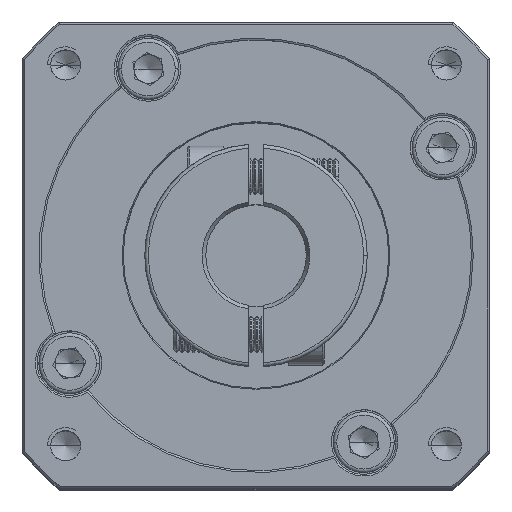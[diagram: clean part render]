
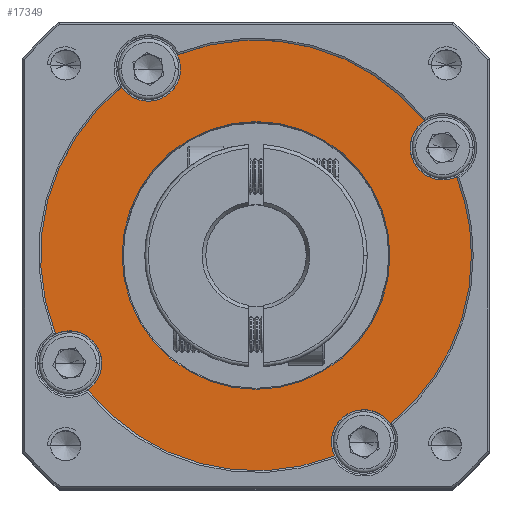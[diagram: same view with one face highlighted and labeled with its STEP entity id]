
A CAD part, top view. The second image highlights one B-rep face of the part: STEP entity #17349.
In plain terms, the highlighted planar face has unit normal (0, 0, 1).
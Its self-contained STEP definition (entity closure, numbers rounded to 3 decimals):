
#81 = CARTESIAN_POINT ( 'NONE',  ( -72.295, 39.886, 31.124 ) ) ;
#365 = DIRECTION ( 'NONE',  ( 1., 0., 0. ) ) ;
#1786 = VERTEX_POINT ( 'NONE', #81 ) ;
#1919 = EDGE_CURVE ( 'NONE', #98457, #53131, #106092, .T. ) ;
#3430 = AXIS2_PLACEMENT_3D ( 'NONE', #76990, #26235, #85480 ) ;
#3675 = DIRECTION ( 'NONE',  ( 1., 0., 0. ) ) ;
#4833 = DIRECTION ( 'NONE',  ( 0., 0., 1. ) ) ;
#5021 = AXIS2_PLACEMENT_3D ( 'NONE', #74126, #73753, #40434 ) ;
#5069 = AXIS2_PLACEMENT_3D ( 'NONE', #101882, #51175, #365 ) ;
#5163 = ORIENTED_EDGE ( 'NONE', *, *, #5378, .T. ) ;
#5345 = VERTEX_POINT ( 'NONE', #93815 ) ;
#5378 = EDGE_CURVE ( 'NONE', #38870, #1786, #98564, .T. ) ;
#5465 = ORIENTED_EDGE ( 'NONE', *, *, #61061, .F. ) ;
#6631 = ORIENTED_EDGE ( 'NONE', *, *, #72800, .F. ) ;
#8724 = CARTESIAN_POINT ( 'NONE',  ( -81.583, 28.941, 31.124 ) ) ;
#9208 = VERTEX_POINT ( 'NONE', #24779 ) ;
#9827 = CARTESIAN_POINT ( 'NONE',  ( -53.651, 39.886, 31.124 ) ) ;
#11881 = ORIENTED_EDGE ( 'NONE', *, *, #68807, .F. ) ;
#13448 = ORIENTED_EDGE ( 'NONE', *, *, #76247, .F. ) ;
#14722 = ORIENTED_EDGE ( 'NONE', *, *, #47704, .T. ) ;
#14975 = VERTEX_POINT ( 'NONE', #8724 ) ;
#15154 = CIRCLE ( 'NONE', #3430, 4.5 ) ;
#16593 = CARTESIAN_POINT ( 'NONE',  ( -42.706, 11.954, 31.124 ) ) ;
#17349 = ADVANCED_FACE ( 'NONE', ( #69065, #23958 ), #86620, .T. ) ;
#18354 = DIRECTION ( 'NONE',  ( 1., 0., 0. ) ) ;
#18575 = CARTESIAN_POINT ( 'NONE',  ( -25.719, 50.831, 31.124 ) ) ;
#20236 = AXIS2_PLACEMENT_3D ( 'NONE', #105131, #54461, #3675 ) ;
#21226 = DIRECTION ( 'NONE',  ( 0., 0., 1. ) ) ;
#22108 = CIRCLE ( 'NONE', #46302, 4.5 ) ;
#22600 = ORIENTED_EDGE ( 'NONE', *, *, #24236, .F. ) ;
#23004 = AXIS2_PLACEMENT_3D ( 'NONE', #39635, #98872, #48194 ) ;
#23550 = CARTESIAN_POINT ( 'NONE',  ( -38.651, 13.905, 31.124 ) ) ;
#23958 = FACE_OUTER_BOUND ( 'NONE', #33172, .T. ) ;
#24236 = EDGE_CURVE ( 'NONE', #9208, #58504, #66276, .T. ) ;
#24779 = CARTESIAN_POINT ( 'NONE',  ( -34.933, 16.441, 31.124 ) ) ;
#24867 = EDGE_CURVE ( 'NONE', #73180, #89462, #87162, .T. ) ;
#26235 = DIRECTION ( 'NONE',  ( 0., 0., 1. ) ) ;
#26613 = DIRECTION ( 'NONE',  ( 0., 0., 1. ) ) ;
#27479 = CARTESIAN_POINT ( 'NONE',  ( -53.651, 39.886, 31.124 ) ) ;
#27935 = CIRCLE ( 'NONE', #57686, 18.644 ) ;
#28732 = DIRECTION ( 'NONE',  ( 0., 0., 1. ) ) ;
#29687 = CARTESIAN_POINT ( 'NONE',  ( -43.151, 13.905, 31.124 ) ) ;
#30822 = CARTESIAN_POINT ( 'NONE',  ( -72.368, 63.331, 31.124 ) ) ;
#32098 = DIRECTION ( 'NONE',  ( 1., 0., 0. ) ) ;
#33172 = EDGE_LOOP ( 'NONE', ( #11881, #53064, #6631, #22600, #86270, #14722, #13448, #53141, #74349, #5465, #69212, #87715, #66628 ) ) ;
#36007 = DIRECTION ( 'NONE',  ( 1., 0., 0. ) ) ;
#36149 = EDGE_LOOP ( 'NONE', ( #5163, #80734 ) ) ;
#38485 = CARTESIAN_POINT ( 'NONE',  ( -35.006, 39.886, 31.124 ) ) ;
#38870 = VERTEX_POINT ( 'NONE', #38485 ) ;
#39635 = CARTESIAN_POINT ( 'NONE',  ( -53.651, 39.886, 31.124 ) ) ;
#40006 = VERTEX_POINT ( 'NONE', #42101 ) ;
#40325 = CIRCLE ( 'NONE', #48317, 4.5 ) ;
#40434 = DIRECTION ( 'NONE',  ( 1., 0., 0. ) ) ;
#42101 = CARTESIAN_POINT ( 'NONE',  ( -75.131, 24.886, 31.124 ) ) ;
#42527 = DIRECTION ( 'NONE',  ( 0., 0., 1. ) ) ;
#43116 = AXIS2_PLACEMENT_3D ( 'NONE', #44813, #104024, #53349 ) ;
#43162 = CIRCLE ( 'NONE', #57288, 4.5 ) ;
#44813 = CARTESIAN_POINT ( 'NONE',  ( -53.651, 39.886, 31.124 ) ) ;
#46302 = AXIS2_PLACEMENT_3D ( 'NONE', #71961, #21226, #80460 ) ;
#47531 = CARTESIAN_POINT ( 'NONE',  ( -32.17, 54.886, 31.124 ) ) ;
#47704 = EDGE_CURVE ( 'NONE', #5345, #103058, #90156, .T. ) ;
#47938 = CARTESIAN_POINT ( 'NONE',  ( -64.596, 67.818, 31.124 ) ) ;
#48194 = DIRECTION ( 'NONE',  ( 1., 0., 0. ) ) ;
#48215 = EDGE_CURVE ( 'NONE', #98457, #14975, #67468, .T. ) ;
#48317 = AXIS2_PLACEMENT_3D ( 'NONE', #77366, #26613, #85838 ) ;
#49409 = DIRECTION ( 'NONE',  ( 0., 0., -1. ) ) ;
#51175 = DIRECTION ( 'NONE',  ( 0., 0., 1. ) ) ;
#51210 = CARTESIAN_POINT ( 'NONE',  ( -77.095, 21.169, 31.124 ) ) ;
#53064 = ORIENTED_EDGE ( 'NONE', *, *, #75943, .T. ) ;
#53131 = VERTEX_POINT ( 'NONE', #66132 ) ;
#53141 = ORIENTED_EDGE ( 'NONE', *, *, #85192, .F. ) ;
#53349 = DIRECTION ( 'NONE',  ( 1., 0., 0. ) ) ;
#54461 = DIRECTION ( 'NONE',  ( 0., 0., 1. ) ) ;
#55558 = CARTESIAN_POINT ( 'NONE',  ( -53.651, 39.886, 31.124 ) ) ;
#55652 = CIRCLE ( 'NONE', #103294, 4.5 ) ;
#57288 = AXIS2_PLACEMENT_3D ( 'NONE', #23550, #82780, #32098 ) ;
#57686 = AXIS2_PLACEMENT_3D ( 'NONE', #100121, #49409, #108563 ) ;
#58504 = VERTEX_POINT ( 'NONE', #29687 ) ;
#60980 = VERTEX_POINT ( 'NONE', #16593 ) ;
#61061 = EDGE_CURVE ( 'NONE', #53131, #89462, #15154, .T. ) ;
#63173 = EDGE_CURVE ( 'NONE', #40006, #14975, #22108, .T. ) ;
#64107 = DIRECTION ( 'NONE',  ( 1., 0., 0. ) ) ;
#65737 = AXIS2_PLACEMENT_3D ( 'NONE', #90134, #90009, #89529 ) ;
#65843 = AXIS2_PLACEMENT_3D ( 'NONE', #27479, #86698, #36007 ) ;
#66132 = CARTESIAN_POINT ( 'NONE',  ( -64.151, 65.867, 31.124 ) ) ;
#66276 = CIRCLE ( 'NONE', #99568, 4.5 ) ;
#66496 = AXIS2_PLACEMENT_3D ( 'NONE', #9827, #69155, #18354 ) ;
#66628 = ORIENTED_EDGE ( 'NONE', *, *, #63173, .F. ) ;
#66653 = VERTEX_POINT ( 'NONE', #51210 ) ;
#67468 = CIRCLE ( 'NONE', #65843, 30. ) ;
#68807 = EDGE_CURVE ( 'NONE', #66653, #40006, #75470, .T. ) ;
#69065 = FACE_BOUND ( 'NONE', #36149, .T. ) ;
#69155 = DIRECTION ( 'NONE',  ( 0., 0., 1. ) ) ;
#69212 = ORIENTED_EDGE ( 'NONE', *, *, #1919, .F. ) ;
#71961 = CARTESIAN_POINT ( 'NONE',  ( -79.631, 24.886, 31.124 ) ) ;
#72800 = EDGE_CURVE ( 'NONE', #58504, #60980, #43162, .T. ) ;
#73180 = VERTEX_POINT ( 'NONE', #97139 ) ;
#73753 = DIRECTION ( 'NONE',  ( 0., 0., 1. ) ) ;
#74126 = CARTESIAN_POINT ( 'NONE',  ( -68.651, 65.867, 31.124 ) ) ;
#74349 = ORIENTED_EDGE ( 'NONE', *, *, #24867, .T. ) ;
#74426 = AXIS2_PLACEMENT_3D ( 'NONE', #55558, #4833, #64107 ) ;
#75470 = CIRCLE ( 'NONE', #5069, 4.5 ) ;
#75943 = EDGE_CURVE ( 'NONE', #66653, #60980, #94264, .T. ) ;
#76247 = EDGE_CURVE ( 'NONE', #100388, #103058, #55652, .T. ) ;
#76990 = CARTESIAN_POINT ( 'NONE',  ( -68.651, 65.867, 31.124 ) ) ;
#77366 = CARTESIAN_POINT ( 'NONE',  ( -27.67, 54.886, 31.124 ) ) ;
#79444 = CARTESIAN_POINT ( 'NONE',  ( -38.651, 13.905, 31.124 ) ) ;
#80460 = DIRECTION ( 'NONE',  ( 1., 0., 0. ) ) ;
#80734 = ORIENTED_EDGE ( 'NONE', *, *, #86650, .T. ) ;
#82780 = DIRECTION ( 'NONE',  ( 0., 0., 1. ) ) ;
#84872 = CIRCLE ( 'NONE', #74426, 30. ) ;
#85192 = EDGE_CURVE ( 'NONE', #73180, #100388, #40325, .T. ) ;
#85480 = DIRECTION ( 'NONE',  ( 1., 0., 0. ) ) ;
#85838 = DIRECTION ( 'NONE',  ( 1., 0., 0. ) ) ;
#86270 = ORIENTED_EDGE ( 'NONE', *, *, #90020, .T. ) ;
#86620 = PLANE ( 'NONE',  #43116 ) ;
#86650 = EDGE_CURVE ( 'NONE', #1786, #38870, #27935, .T. ) ;
#86698 = DIRECTION ( 'NONE',  ( 0., 0., 1. ) ) ;
#87162 = CIRCLE ( 'NONE', #23004, 30. ) ;
#87715 = ORIENTED_EDGE ( 'NONE', *, *, #48215, .T. ) ;
#87940 = DIRECTION ( 'NONE',  ( 1., 0., 0. ) ) ;
#89462 = VERTEX_POINT ( 'NONE', #47938 ) ;
#89529 = DIRECTION ( 'NONE',  ( 1., 0., 0. ) ) ;
#90009 = DIRECTION ( 'NONE',  ( 0., 0., -1. ) ) ;
#90020 = EDGE_CURVE ( 'NONE', #9208, #5345, #84872, .T. ) ;
#90134 = CARTESIAN_POINT ( 'NONE',  ( -53.651, 39.886, 31.124 ) ) ;
#90156 = CIRCLE ( 'NONE', #66496, 30. ) ;
#93255 = CARTESIAN_POINT ( 'NONE',  ( -27.67, 54.886, 31.124 ) ) ;
#93815 = CARTESIAN_POINT ( 'NONE',  ( -23.651, 39.886, 31.124 ) ) ;
#94264 = CIRCLE ( 'NONE', #20236, 30. ) ;
#97139 = CARTESIAN_POINT ( 'NONE',  ( -30.206, 58.603, 31.124 ) ) ;
#98457 = VERTEX_POINT ( 'NONE', #30822 ) ;
#98564 = CIRCLE ( 'NONE', #65737, 18.644 ) ;
#98872 = DIRECTION ( 'NONE',  ( 0., 0., 1. ) ) ;
#99568 = AXIS2_PLACEMENT_3D ( 'NONE', #79444, #28732, #87940 ) ;
#100121 = CARTESIAN_POINT ( 'NONE',  ( -53.651, 39.886, 31.124 ) ) ;
#100388 = VERTEX_POINT ( 'NONE', #47531 ) ;
#101772 = DIRECTION ( 'NONE',  ( 1., 0., 0. ) ) ;
#101882 = CARTESIAN_POINT ( 'NONE',  ( -79.631, 24.886, 31.124 ) ) ;
#103058 = VERTEX_POINT ( 'NONE', #18575 ) ;
#103294 = AXIS2_PLACEMENT_3D ( 'NONE', #93255, #42527, #101772 ) ;
#104024 = DIRECTION ( 'NONE',  ( 0., 0., 1. ) ) ;
#105131 = CARTESIAN_POINT ( 'NONE',  ( -53.651, 39.886, 31.124 ) ) ;
#106092 = CIRCLE ( 'NONE', #5021, 4.5 ) ;
#108563 = DIRECTION ( 'NONE',  ( 1., 0., 0. ) ) ;
